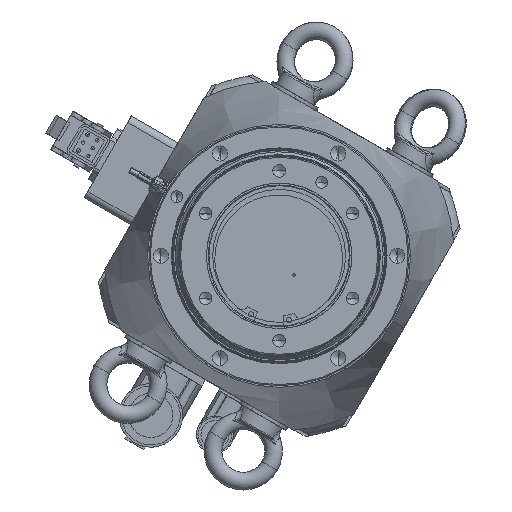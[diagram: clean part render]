
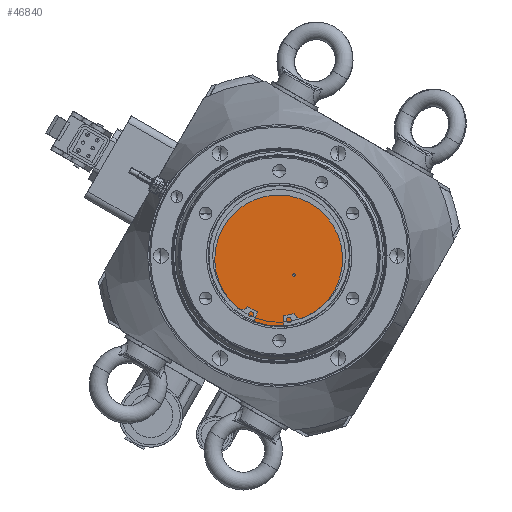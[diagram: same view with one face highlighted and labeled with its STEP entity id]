
A CAD part, front view. The second image highlights one B-rep face of the part: STEP entity #46840.
In plain terms, the highlighted planar face has unit normal (0, -1, 0).
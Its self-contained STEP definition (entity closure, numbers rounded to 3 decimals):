
#252 = CARTESIAN_POINT ( 'NONE',  ( 0., -49.5, 0. ) ) ;
#961 = DIRECTION ( 'NONE',  ( 0., 1., 0. ) ) ;
#1376 = CARTESIAN_POINT ( 'NONE',  ( 0., -49.5, 0. ) ) ;
#2734 = ORIENTED_EDGE ( 'NONE', *, *, #62758, .T. ) ;
#2825 = CARTESIAN_POINT ( 'NONE',  ( 9.993, -49.5, -12.971 ) ) ;
#4329 = DIRECTION ( 'NONE',  ( -1., 0., 0. ) ) ;
#6407 = CARTESIAN_POINT ( 'NONE',  ( 10.993, -49.5, -12.971 ) ) ;
#7207 = VERTEX_POINT ( 'NONE', #60658 ) ;
#8669 = DIRECTION ( 'NONE',  ( -1., 0., 0. ) ) ;
#10520 = EDGE_LOOP ( 'NONE', ( #31840, #2734 ) ) ;
#12308 = DIRECTION ( 'NONE',  ( 0., 1., 0. ) ) ;
#12592 = VERTEX_POINT ( 'NONE', #45379 ) ;
#15886 = AXIS2_PLACEMENT_3D ( 'NONE', #1376, #12308, #57627 ) ;
#16649 = EDGE_LOOP ( 'NONE', ( #27718, #62293 ) ) ;
#17568 = DIRECTION ( 'NONE',  ( -1., 0., 0. ) ) ;
#20855 = EDGE_CURVE ( 'NONE', #7207, #45715, #45757, .T. ) ;
#26332 = AXIS2_PLACEMENT_3D ( 'NONE', #39529, #66465, #17568 ) ;
#27718 = ORIENTED_EDGE ( 'NONE', *, *, #41341, .F. ) ;
#29431 = AXIS2_PLACEMENT_3D ( 'NONE', #252, #961, #40364 ) ;
#30863 = FACE_OUTER_BOUND ( 'NONE', #16649, .T. ) ;
#31840 = ORIENTED_EDGE ( 'NONE', *, *, #54957, .T. ) ;
#36322 = PLANE ( 'NONE',  #26332 ) ;
#36505 = CARTESIAN_POINT ( 'NONE',  ( 9.993, -49.5, -12.971 ) ) ;
#37279 = CIRCLE ( 'NONE', #38418, 1. ) ;
#38418 = AXIS2_PLACEMENT_3D ( 'NONE', #36505, #41905, #4329 ) ;
#39529 = CARTESIAN_POINT ( 'NONE',  ( 0., -49.5, 0. ) ) ;
#40364 = DIRECTION ( 'NONE',  ( -1., 0., 0. ) ) ;
#41341 = EDGE_CURVE ( 'NONE', #45715, #7207, #66207, .T. ) ;
#41495 = VERTEX_POINT ( 'NONE', #6407 ) ;
#41725 = FACE_BOUND ( 'NONE', #10520, .T. ) ;
#41905 = DIRECTION ( 'NONE',  ( 0., 1., 0. ) ) ;
#45379 = CARTESIAN_POINT ( 'NONE',  ( 8.993, -49.5, -12.971 ) ) ;
#45715 = VERTEX_POINT ( 'NONE', #50631 ) ;
#45757 = CIRCLE ( 'NONE', #15886, 47.5 ) ;
#46840 = ADVANCED_FACE ( 'NONE', ( #30863, #41725 ), #36322, .F. ) ;
#49955 = AXIS2_PLACEMENT_3D ( 'NONE', #2825, #57999, #8669 ) ;
#50631 = CARTESIAN_POINT ( 'NONE',  ( 47.5, -49.5, 0. ) ) ;
#54957 = EDGE_CURVE ( 'NONE', #41495, #12592, #37279, .T. ) ;
#57627 = DIRECTION ( 'NONE',  ( -1., 0., 0. ) ) ;
#57999 = DIRECTION ( 'NONE',  ( 0., 1., 0. ) ) ;
#60658 = CARTESIAN_POINT ( 'NONE',  ( -47.5, -49.5, 0. ) ) ;
#62293 = ORIENTED_EDGE ( 'NONE', *, *, #20855, .F. ) ;
#62758 = EDGE_CURVE ( 'NONE', #12592, #41495, #67149, .T. ) ;
#66207 = CIRCLE ( 'NONE', #29431, 47.5 ) ;
#66465 = DIRECTION ( 'NONE',  ( 0., 1., 0. ) ) ;
#67149 = CIRCLE ( 'NONE', #49955, 1. ) ;
